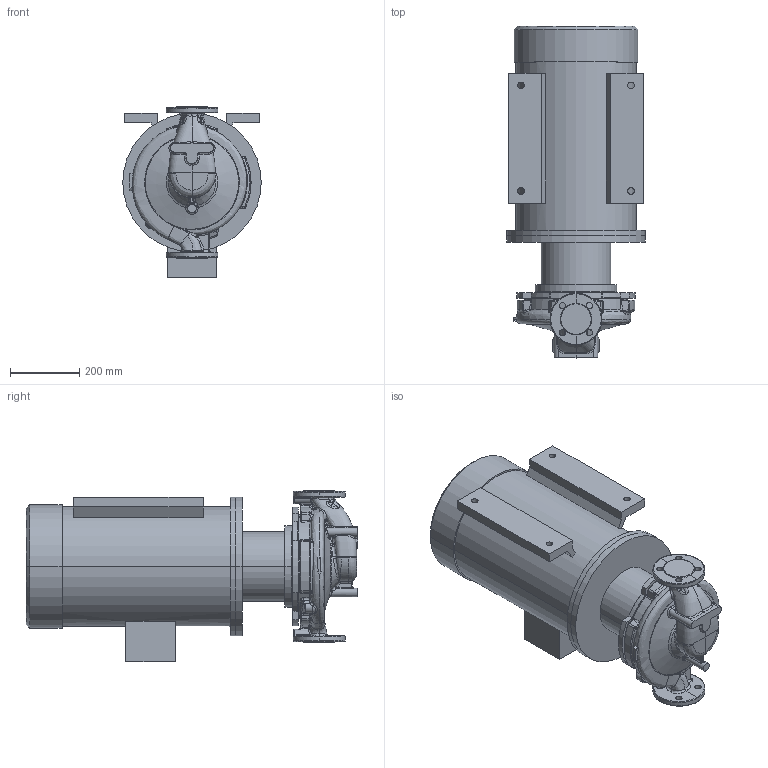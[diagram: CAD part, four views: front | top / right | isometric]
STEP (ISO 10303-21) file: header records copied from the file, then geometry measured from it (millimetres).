
FILE_DESCRIPTION (( 'STEP AP203' ), '1' );
FILE_NAME ('KRL 40-250-269_2-30.STEP', '2026-05-12T09:16:23', ( '' ), ( '' ), 'SwSTEP 2.0', 'SolidWorks 2016', '' );
FILE_SCHEMA (( 'CONFIG_CONTROL_DESIGN' ));
Products named in the file (1): KRL 40-250-269_2-30
Bounding box: 400 x 959.3 x 495 mm (x, y, z)
Volume: 81535293.6 mm3; surface area: 2272463.3 mm2
Topology: 4 solids, 4 shells, 699 faces, 1679 edges, 992 vertices
Faces by surface type: bspline 316, cylinder 142, plane 121, sphere 44, cone 42, torus 34
Entity records: 61038 total; most frequent: CARTESIAN_POINT 47429, ORIENTED_EDGE 3320, DIRECTION 2180, EDGE_CURVE 1660, VERTEX_POINT 992, AXIS2_PLACEMENT_3D 936, EDGE_LOOP 746, ADVANCED_FACE 699
